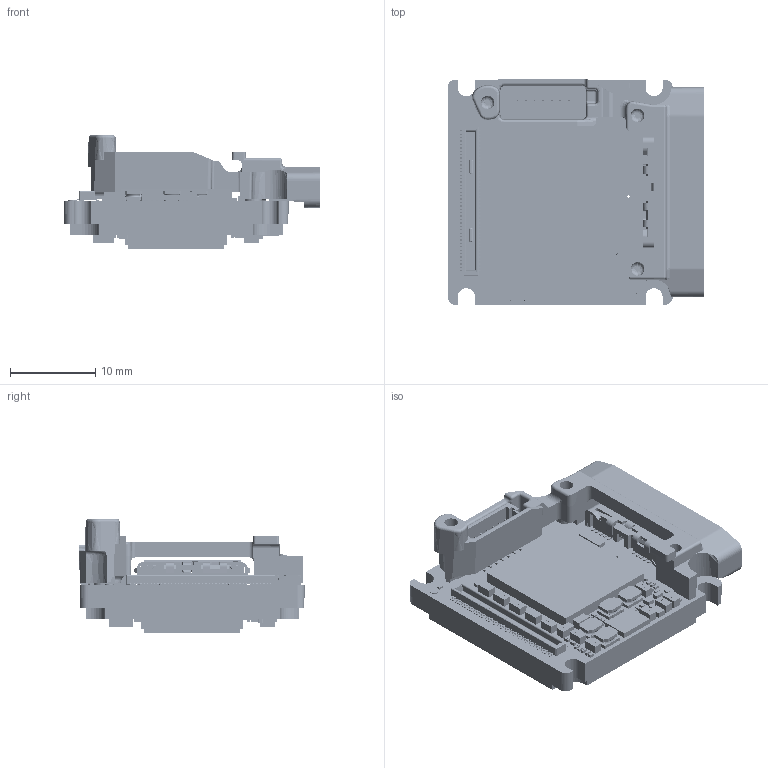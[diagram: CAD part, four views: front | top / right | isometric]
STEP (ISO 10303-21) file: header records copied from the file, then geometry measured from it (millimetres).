
FILE_DESCRIPTION (( 'STEP AP214' ), '1' );
FILE_NAME ('Alvium-USB90-Bare-Board-AR0521.STEP', '2022-10-24T13:07:24', ( '' ), ( '' ), 'SwSTEP 2.0', 'SolidWorks 2021', '' );
FILE_SCHEMA (( 'AUTOMOTIVE_DESIGN' ));
Length unit declared in the file: millimetre
Products named in the file (1): Alvium-USB90-Bare-Board-AR0521
Bounding box: 30.1 x 26.45 x 13.34 mm (x, y, z)
Surface area: 5524.3 mm2 (no closed solid volume)
Topology: 0 solids, 173 shells, 11147 faces, 28656 edges, 18777 vertices
Faces by surface type: plane 5359, bspline 4835, cylinder 875, cone 38, torus 32, sphere 8
Entity records: 731697 total; most frequent: CARTESIAN_POINT 370088, ORIENTED_EDGE 57282, DIRECTION 33113, EDGE_CURVE 28641, VERTEX_POINT 18777, VECTOR 16983, LINE 16983, EDGE_LOOP 12128
